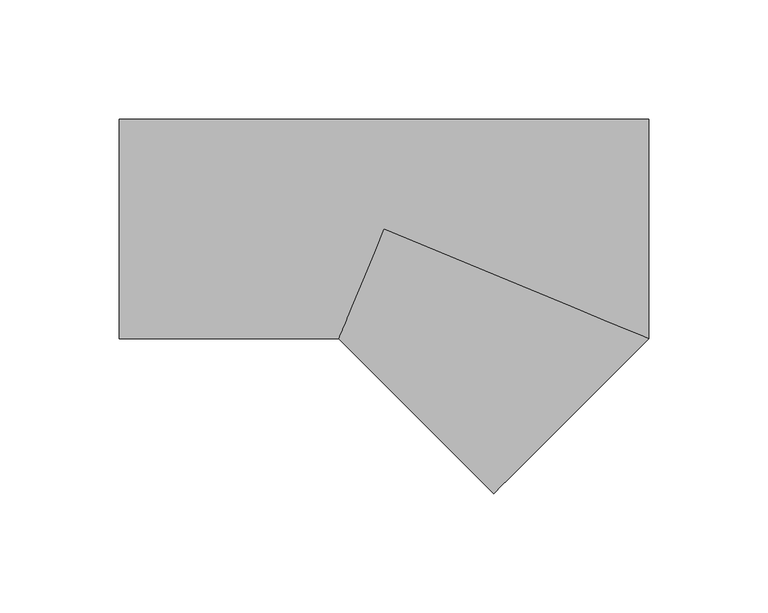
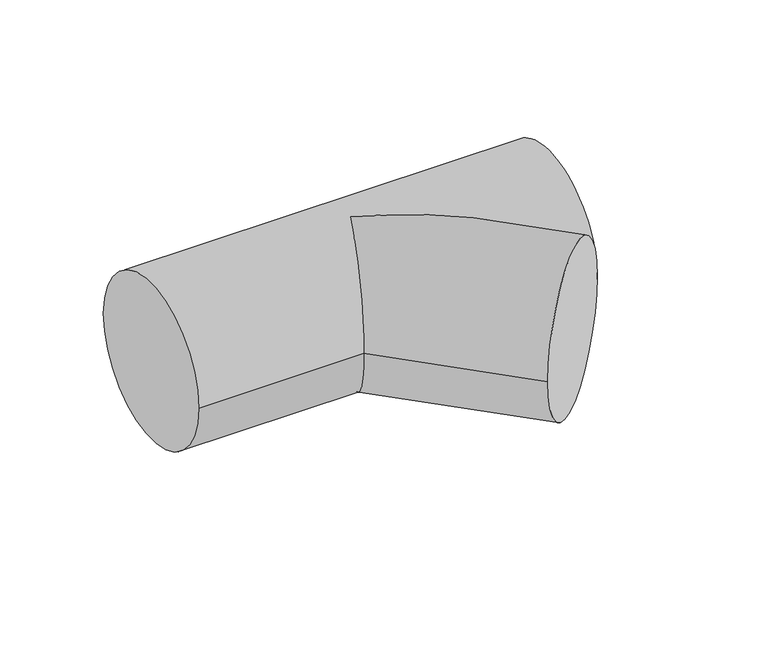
"""IFC4 building model written with IfcOpenShell, lengths in millimetres: pipe fitting geometry, M_Te - Genérica : Estándar."""

from ifc_helpers import new_model, si_unit, frame, origin, place, context, project, spatial, circle_curve, ellipse_curve, source, transform, mapped, element, save
from ifc_brep_helpers import plane_surface, cylinder_surface, advanced_brep


def pipe_fitting_22462b75(model_context):
    return source(origin(), model_context, "Body", "AdvancedBrep", [
        advanced_brep(
        [(-111.1508674, -46.0375, 0.0), (-111.1508674, 46.0375, 0.0), (111.1508674, -46.0375, 0.0), (111.1508674, 46.0375, 0.0), (-19.0682399, -46.0375, 0.0), (0.0, 0.0, 46.0375), (0.0, 0.0, -46.0375), (46.0467072, -111.1470534, 0.0)],
        [
            (0, 1, circle_curve(frame((-111.1508674, 0.0, 0.0), z_axis=(-1.0, 0.0, 0.0), x_axis=(0.0, 1.0, 0.0)), 46.0375)),
            (1, 0, circle_curve(frame((-111.1508674, 0.0, 0.0), z_axis=(-1.0, 0.0, 0.0), x_axis=(0.0, 1.0, 0.0)), 46.0375)),
            (2, 3, circle_curve(frame((111.1508674, 0.0, 0.0), z_axis=(1.0, 0.0, 0.0), x_axis=(0.0, 1.0, 0.0)), 46.0375)),
            (3, 2, circle_curve(frame((111.1508674, 0.0, 0.0), z_axis=(1.0, 0.0, 0.0), x_axis=(0.0, 1.0, 0.0)), 46.0375)),
            (0, 4),
            (4, 5, ellipse_curve(frame((0.0, 0.0, 0.0), z_axis=(-0.9238874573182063, 0.3826642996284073, 0.0), x_axis=(-0.38266429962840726, -0.9238874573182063, 0.0)), 49.8302035, 46.0375)),
            (5, 2, ellipse_curve(frame((0.0, 0.0, 0.0), z_axis=(0.38266429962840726, 0.9238874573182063, 0.0), x_axis=(-0.9238874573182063, 0.38266429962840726, 0.0)), 120.3077999, 46.0375)),
            (3, 1),
            (2, 6, ellipse_curve(frame((0.0, 0.0, 0.0), z_axis=(0.38266429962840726, 0.9238874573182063, 0.0), x_axis=(-0.9238874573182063, 0.38266429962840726, 0.0)), 120.3077999, 46.0375)),
            (6, 4, ellipse_curve(frame((0.0, 0.0, 0.0), z_axis=(-0.9238874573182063, 0.3826642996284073, 0.0), x_axis=(-0.38266429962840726, -0.9238874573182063, 0.0)), 49.8302035, 46.0375)),
            (7, 2, circle_curve(frame((78.5987873, -78.5922767, 0.0), z_axis=(0.7071360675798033, -0.7070774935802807, 0.0), x_axis=(0.7070774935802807, 0.7071360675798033, 0.0)), 46.0375)),
            (2, 7, circle_curve(frame((78.5987873, -78.5922767, 0.0), z_axis=(0.7071360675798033, -0.7070774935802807, 0.0), x_axis=(0.7070774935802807, 0.7071360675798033, 0.0)), 46.0375)),
            (4, 7),
        ],
        [
            plane_surface(frame((-111.1508674, 0.0, 0.0), z_axis=(-1.0, 0.0, 0.0), x_axis=(0.0, 0.0, 1.0))),
            plane_surface(frame((111.1508674, 0.0, 0.0), z_axis=(1.0, 0.0, 0.0), x_axis=(0.0, 0.0, 1.0))),
            cylinder_surface(frame((-111.1508674, 0.0, 0.0), z_axis=(-1.0, 0.0, 0.0), x_axis=(0.0, 1.0, 0.0)), 46.0375),
            plane_surface(frame((78.5987873, -78.5922767, 0.0), z_axis=(0.7071360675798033, -0.7070774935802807, 0.0), x_axis=(0.0, 0.0, 1.0))),
            cylinder_surface(frame((0.0, 0.0, 0.0), z_axis=(-0.7071360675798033, 0.7070774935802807, 0.0), x_axis=(0.7070774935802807, 0.7071360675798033, 0.0)), 46.0375),
        ],
        [
            (0, [[1, 2]]),
            (1, [[3, 4]]),
            (2, [[-1, 5, 6, 7, -4, 8]]),
            (2, [[-2, -8, -3, 9, 10, -5]]),
            (3, [[11, 12]]),
            (4, [[-12, -7, -6, 13]]),
            (4, [[-11, -13, -10, -9]]),
        ],
    ),
    ])


if __name__ == "__main__":
    model = new_model("IFC4")
    model_context = context("Model", 3, world=origin())
    ifc_project = project(units=[si_unit("LENGTHUNIT", "METRE", prefix="MILLI")], contexts=[model_context])
    site = spatial("IfcSite", under=ifc_project)
    building = spatial("IfcBuilding", under=site)
    placement = place(None, origin())
    pipe_fitting_shape = pipe_fitting_22462b75(model_context)
    element("IfcPipeFitting", 1, ObjectType="M_Te - Genérica : Estándar", at=placement, inside=building, context=model_context, shape_type="MappedRepresentation", body=[
        mapped(pipe_fitting_shape, transform((0.0, 0.0, 0.0), x_axis=(1.0, 0.0, 0.0), y_axis=(0.0, 1.0, 0.0), z_axis=(0.0, 0.0, 1.0))),
    ])
    save(model, "model.ifc")
